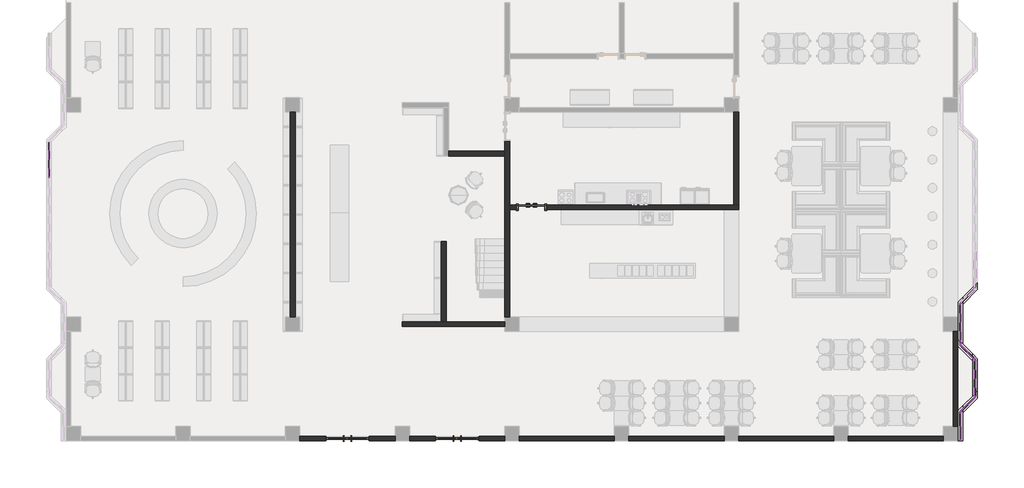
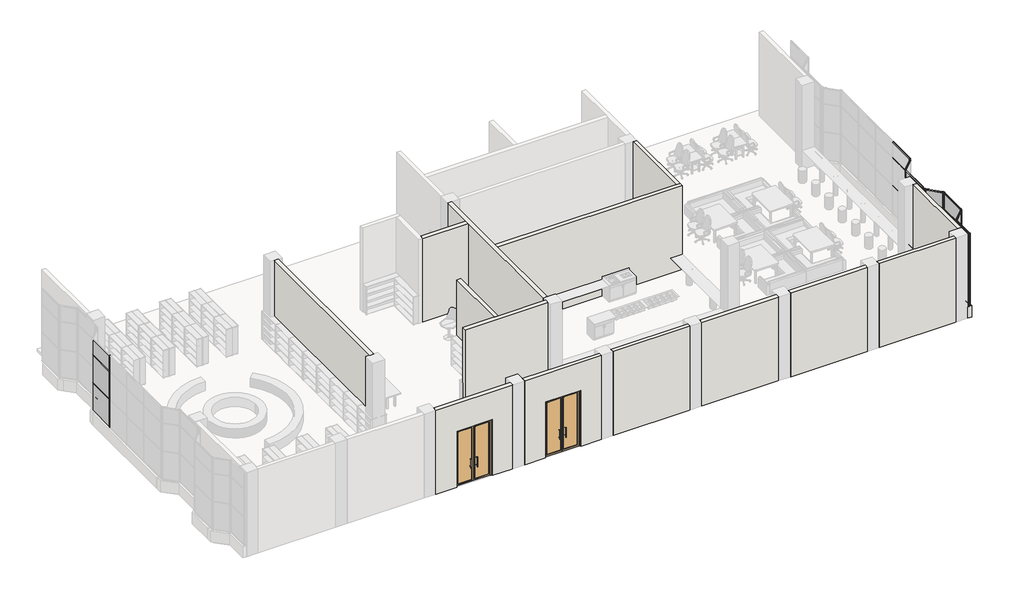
# One storey, part 2 of 6: 80 members, 22 plates, 20 walls, 3 doors.
"""IFC4 building model written with IfcOpenShell, lengths in millimetres."""

from ifc_helpers import new_model, si_unit, frame, origin, origin_with_axes, place, context, project, spatial, polyline, outline, extrude, faceted_brep, transform, mapped, element, save
from components import m1_435fa931, m2_627b48e9, member_416e91fe, member_e4634f50, member_39920356, member_1f987d58, member_cb4e50c7, member_f3a61f5a, member_936fc316, member_ce826986, member_b2874c62, member_844fc7d1, member_a19ce0de, member_3b68bbe8, member_65f70824, member_5b67f58a, plate_37a4c68e, plate_a56820a4, plate_1ca0cd63, plate_9a7d06eb, plate_54ac635d, plate_9a913afb, plate_a414dcb1, plate_d4bc9f12

model = new_model("IFC4")

# Units and contexts
model_context = context("Model", 3, world=origin())
ifc_project = project(units=[si_unit("LENGTHUNIT", "METRE", prefix="MILLI")], contexts=[model_context])

# Site, building, storey
site = spatial("IfcSite", under=ifc_project)
building = spatial("IfcBuilding", under=site)
storey = spatial("IfcBuildingStorey", under=building, Name="标高 1", Elevation=0.0)

# Doors
placement = place(None, origin())
m1_shape = m1_435fa931(model_context)
element("IfcDoor", 1, ObjectType="双面嵌板玻璃门 : M1", at=placement, inside=storey, context=model_context, shape_type="MappedRepresentation", body=[
    mapped(m1_shape, transform((2817.3316161, -11825.464179, 0.0), x_axis=(1.0, 0.0, 0.0), y_axis=(0.0, 1.0, 0.0), z_axis=(0.0, 0.0, 1.0))),
])
element("IfcDoor", 2, ObjectType="双面嵌板玻璃门 : M1", at=placement, inside=storey, context=model_context, shape_type="MappedRepresentation", body=[
    mapped(m1_shape, transform((7317.3316161, -11825.464179, 0.0), x_axis=(1.0, 0.0, 0.0), y_axis=(0.0, 1.0, 0.0), z_axis=(0.0, 0.0, 1.0))),
])
m2_shape = m2_627b48e9(model_context)
element("IfcDoor", 3, ObjectType="双面嵌板木门 1 : M2", at=placement, inside=storey, context=model_context, shape_type="MappedRepresentation", body=[
    mapped(m2_shape, transform((10367.3316161, -2325.464179, 0.0), x_axis=(1.0, 0.0, 0.0), y_axis=(0.0, 1.0, 0.0), z_axis=(0.0, 0.0, 1.0))),
])

# Members
member_shape = member_416e91fe(model_context)
element("IfcMember", 4, ObjectType="矩形竖梃 : 30mm 正方形", at=placement, inside=storey, context=model_context, shape_type="MappedRepresentation", body=[
    mapped(member_shape, transform((-9432.6683839, -1104.0428231, 2135.0), x_axis=(0.0, 0.0, 1.0), y_axis=(-1.0, 0.0, 0.0), z_axis=(0.0, -1.0, 0.0))),
])
element("IfcMember", 5, ObjectType="矩形竖梃 : 30mm 正方形", at=placement, inside=storey, context=model_context, shape_type="MappedRepresentation", body=[
    mapped(member_shape, transform((-9432.6683839, -1104.0428231, 3635.0), x_axis=(0.0, 0.0, 1.0), y_axis=(-1.0, 0.0, 0.0), z_axis=(0.0, -1.0, 0.0))),
])
member_2_shape = member_e4634f50(model_context)
element("IfcMember", 6, ObjectType="矩形竖梃 : 30mm 正方形", at=placement, inside=storey, context=model_context, shape_type="MappedRepresentation", body=[
    mapped(member_2_shape, transform((-9432.6683839, -1119.0428231, 600.0), x_axis=(0.0, -1.0, 0.0), y_axis=(-1.0, 0.0, 0.0), z_axis=(0.0, 0.0, -1.0))),
])
member_3_shape = member_39920356(model_context)
element("IfcMember", 7, ObjectType="矩形竖梃 : 30mm 正方形", at=placement, inside=storey, context=model_context, shape_type="MappedRepresentation", body=[
    mapped(member_3_shape, transform((-9432.6683839, -1119.0428231, 2135.0), x_axis=(0.0, -1.0, 0.0), y_axis=(-1.0, 0.0, 0.0), z_axis=(0.0, 0.0, -1.0))),
])
member_4_shape = member_1f987d58(model_context)
element("IfcMember", 8, ObjectType="矩形竖梃 : 30mm 正方形", at=placement, inside=storey, context=model_context, shape_type="MappedRepresentation", body=[
    mapped(member_4_shape, transform((-9432.6683839, -1119.0428231, 3635.0), x_axis=(0.0, -1.0, 0.0), y_axis=(-1.0, 0.0, 0.0), z_axis=(0.0, 0.0, -1.0))),
])
member_5_shape = member_cb4e50c7(model_context)
element("IfcMember", 9, ObjectType="圆形竖梃 : 25mm 半径", at=placement, inside=storey, context=model_context, shape_type="MappedRepresentation", body=[
    mapped(member_5_shape, transform((27967.3316161, -11875.464179, 4500.0), x_axis=(0.0, 0.0, 1.0), y_axis=(-1.0, 0.0, 0.0), z_axis=(0.0, -1.0, 0.0))),
])
element("IfcMember", 10, ObjectType="圆形竖梃 : 25mm 半径", at=placement, inside=storey, context=model_context, shape_type="MappedRepresentation", body=[
    mapped(member_5_shape, transform((27967.3316161, -10775.464179, 600.0), x_axis=(0.0, 0.0, -1.0), y_axis=(-1.0, 0.0, 0.0), z_axis=(0.0, 1.0, 0.0))),
])
member_6_shape = member_f3a61f5a(model_context)
element("IfcMember", 11, ObjectType="矩形竖梃 : 30mm 正方形", at=placement, inside=storey, context=model_context, shape_type="MappedRepresentation", body=[
    mapped(member_6_shape, transform((27967.3316161, -11875.464179, 2135.0), x_axis=(0.0, 0.0, 1.0), y_axis=(-1.0, 0.0, 0.0), z_axis=(0.0, -1.0, 0.0))),
])
element("IfcMember", 12, ObjectType="矩形竖梃 : 30mm 正方形", at=placement, inside=storey, context=model_context, shape_type="MappedRepresentation", body=[
    mapped(member_6_shape, transform((27967.3316161, -11875.464179, 3635.0), x_axis=(0.0, 0.0, 1.0), y_axis=(-1.0, 0.0, 0.0), z_axis=(0.0, -1.0, 0.0))),
])
member_7_shape = member_936fc316(model_context)
element("IfcMember", 13, ObjectType="圆形竖梃 : 25mm 半径", at=placement, inside=storey, context=model_context, shape_type="MappedRepresentation", body=[
    mapped(member_7_shape, transform((28567.3316161, -5666.8855353, 600.0), x_axis=(0.0, -1.0, 0.0), y_axis=(-1.0, 0.0, 0.0), z_axis=(0.0, 0.0, -1.0))),
])
element("IfcMember", 14, ObjectType="圆形竖梃 : 25mm 半径", at=placement, inside=storey, context=model_context, shape_type="MappedRepresentation", body=[
    mapped(member_7_shape, transform((27967.3316161, -6266.8855353, 600.0), x_axis=(-0.7071067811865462, -0.7071067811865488, 0.0), y_axis=(-0.7071067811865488, 0.7071067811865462, 0.0), z_axis=(0.0, 0.0, -1.0))),
])
element("IfcMember", 15, ObjectType="圆形竖梃 : 25mm 半径", at=placement, inside=storey, context=model_context, shape_type="MappedRepresentation", body=[
    mapped(member_7_shape, transform((27967.3316161, -7984.0428228, 600.0), x_axis=(0.0, -1.0, 0.0), y_axis=(-1.0, 0.0, 0.0), z_axis=(0.0, 0.0, -1.0))),
])
element("IfcMember", 16, ObjectType="圆形竖梃 : 25mm 半径", at=placement, inside=storey, context=model_context, shape_type="MappedRepresentation", body=[
    mapped(member_7_shape, transform((28567.3316161, -8584.0428228, 600.0), x_axis=(0.7071067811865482, -0.7071067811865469, 0.0), y_axis=(-0.7071067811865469, -0.7071067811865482, 0.0), z_axis=(0.0, 0.0, -1.0))),
])
element("IfcMember", 17, ObjectType="圆形竖梃 : 25mm 半径", at=placement, inside=storey, context=model_context, shape_type="MappedRepresentation", body=[
    mapped(member_7_shape, transform((27967.3316161, -10725.464179, 600.0), x_axis=(-0.7071067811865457, -0.7071067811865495, 0.0), y_axis=(-0.7071067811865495, 0.7071067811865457, 0.0), z_axis=(0.0, 0.0, -1.0))),
])
element("IfcMember", 18, ObjectType="圆形竖梃 : 25mm 半径", at=placement, inside=storey, context=model_context, shape_type="MappedRepresentation", body=[
    mapped(member_7_shape, transform((27967.3316161, -11925.464179, 600.0), x_axis=(0.0, -1.0, 0.0), y_axis=(-1.0, 0.0, 0.0), z_axis=(0.0, 0.0, -1.0))),
])
member_8_shape = member_ce826986(model_context)
element("IfcMember", 19, ObjectType="圆形竖梃 : 25mm 半径", at=placement, inside=storey, context=model_context, shape_type="MappedRepresentation", body=[
    mapped(member_8_shape, transform((28567.3316161, -5666.8855353, 2135.0), x_axis=(0.0, -1.0, 0.0), y_axis=(-1.0, 0.0, 0.0), z_axis=(0.0, 0.0, -1.0))),
])
element("IfcMember", 20, ObjectType="圆形竖梃 : 25mm 半径", at=placement, inside=storey, context=model_context, shape_type="MappedRepresentation", body=[
    mapped(member_8_shape, transform((27967.3316161, -6266.8855353, 2135.0), x_axis=(-0.7071067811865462, -0.7071067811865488, 0.0), y_axis=(-0.7071067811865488, 0.7071067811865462, 0.0), z_axis=(0.0, 0.0, -1.0))),
])
element("IfcMember", 21, ObjectType="圆形竖梃 : 25mm 半径", at=placement, inside=storey, context=model_context, shape_type="MappedRepresentation", body=[
    mapped(member_8_shape, transform((27967.3316161, -7984.0428228, 2135.0), x_axis=(0.0, -1.0, 0.0), y_axis=(-1.0, 0.0, 0.0), z_axis=(0.0, 0.0, -1.0))),
])
element("IfcMember", 22, ObjectType="圆形竖梃 : 25mm 半径", at=placement, inside=storey, context=model_context, shape_type="MappedRepresentation", body=[
    mapped(member_8_shape, transform((28567.3316161, -8584.0428228, 2135.0), x_axis=(0.7071067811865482, -0.7071067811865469, 0.0), y_axis=(-0.7071067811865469, -0.7071067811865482, 0.0), z_axis=(0.0, 0.0, -1.0))),
])
element("IfcMember", 23, ObjectType="圆形竖梃 : 25mm 半径", at=placement, inside=storey, context=model_context, shape_type="MappedRepresentation", body=[
    mapped(member_8_shape, transform((27967.3316161, -10725.464179, 2135.0), x_axis=(-0.7071067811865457, -0.7071067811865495, 0.0), y_axis=(-0.7071067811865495, 0.7071067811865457, 0.0), z_axis=(0.0, 0.0, -1.0))),
])
element("IfcMember", 24, ObjectType="圆形竖梃 : 25mm 半径", at=placement, inside=storey, context=model_context, shape_type="MappedRepresentation", body=[
    mapped(member_8_shape, transform((27967.3316161, -11925.464179, 2135.0), x_axis=(0.0, -1.0, 0.0), y_axis=(-1.0, 0.0, 0.0), z_axis=(0.0, 0.0, -1.0))),
])
member_9_shape = member_b2874c62(model_context)
element("IfcMember", 25, ObjectType="圆形竖梃 : 25mm 半径", at=placement, inside=storey, context=model_context, shape_type="MappedRepresentation", body=[
    mapped(member_9_shape, transform((28567.3316161, -5666.8855353, 3635.0), x_axis=(0.0, -1.0, 0.0), y_axis=(-1.0, 0.0, 0.0), z_axis=(0.0, 0.0, -1.0))),
])
element("IfcMember", 26, ObjectType="圆形竖梃 : 25mm 半径", at=placement, inside=storey, context=model_context, shape_type="MappedRepresentation", body=[
    mapped(member_9_shape, transform((27967.3316161, -6266.8855353, 3635.0), x_axis=(-0.7071067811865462, -0.7071067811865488, 0.0), y_axis=(-0.7071067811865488, 0.7071067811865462, 0.0), z_axis=(0.0, 0.0, -1.0))),
])
element("IfcMember", 27, ObjectType="圆形竖梃 : 25mm 半径", at=placement, inside=storey, context=model_context, shape_type="MappedRepresentation", body=[
    mapped(member_9_shape, transform((27967.3316161, -7984.0428228, 3635.0), x_axis=(0.0, -1.0, 0.0), y_axis=(-1.0, 0.0, 0.0), z_axis=(0.0, 0.0, -1.0))),
])
element("IfcMember", 28, ObjectType="圆形竖梃 : 25mm 半径", at=placement, inside=storey, context=model_context, shape_type="MappedRepresentation", body=[
    mapped(member_9_shape, transform((28567.3316161, -8584.0428228, 3635.0), x_axis=(0.7071067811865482, -0.7071067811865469, 0.0), y_axis=(-0.7071067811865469, -0.7071067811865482, 0.0), z_axis=(0.0, 0.0, -1.0))),
])
element("IfcMember", 29, ObjectType="圆形竖梃 : 25mm 半径", at=placement, inside=storey, context=model_context, shape_type="MappedRepresentation", body=[
    mapped(member_9_shape, transform((27967.3316161, -10725.464179, 3635.0), x_axis=(-0.7071067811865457, -0.7071067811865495, 0.0), y_axis=(-0.7071067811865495, 0.7071067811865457, 0.0), z_axis=(0.0, 0.0, -1.0))),
])
element("IfcMember", 30, ObjectType="圆形竖梃 : 25mm 半径", at=placement, inside=storey, context=model_context, shape_type="MappedRepresentation", body=[
    mapped(member_9_shape, transform((27967.3316161, -11925.464179, 3635.0), x_axis=(0.0, -1.0, 0.0), y_axis=(-1.0, 0.0, 0.0), z_axis=(0.0, 0.0, -1.0))),
])
element("IfcMember", 31, ObjectType="圆形竖梃 : 25mm 半径", at=placement, inside=storey, context=model_context, shape_type="MappedRepresentation", body=[
    mapped(member_9_shape, transform((27967.3316161, -6266.8855353, 4500.0), x_axis=(0.0, 1.0, 0.0), y_axis=(-1.0, 0.0, 0.0), z_axis=(0.0, 0.0, 1.0))),
])
element("IfcMember", 32, ObjectType="圆形竖梃 : 25mm 半径", at=placement, inside=storey, context=model_context, shape_type="MappedRepresentation", body=[
    mapped(member_9_shape, transform((27967.3316161, -7984.0428228, 4500.0), x_axis=(-0.7071067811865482, 0.7071067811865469, 0.0), y_axis=(-0.7071067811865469, -0.7071067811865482, 0.0), z_axis=(0.0, 0.0, 1.0))),
])
element("IfcMember", 33, ObjectType="圆形竖梃 : 25mm 半径", at=placement, inside=storey, context=model_context, shape_type="MappedRepresentation", body=[
    mapped(member_9_shape, transform((28567.3316161, -8584.0428228, 4500.0), x_axis=(0.0, 1.0, 0.0), y_axis=(-1.0, 0.0, 0.0), z_axis=(0.0, 0.0, 1.0))),
])
element("IfcMember", 34, ObjectType="圆形竖梃 : 25mm 半径", at=placement, inside=storey, context=model_context, shape_type="MappedRepresentation", body=[
    mapped(member_9_shape, transform((28567.3316161, -10125.464179, 4500.0), x_axis=(0.7071067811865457, 0.7071067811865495, 0.0), y_axis=(-0.7071067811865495, 0.7071067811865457, 0.0), z_axis=(0.0, 0.0, 1.0))),
])
element("IfcMember", 35, ObjectType="圆形竖梃 : 25mm 半径", at=placement, inside=storey, context=model_context, shape_type="MappedRepresentation", body=[
    mapped(member_9_shape, transform((27967.3316161, -10725.464179, 4500.0), x_axis=(0.0, 1.0, 0.0), y_axis=(-1.0, 0.0, 0.0), z_axis=(0.0, 0.0, 1.0))),
])
element("IfcMember", 36, ObjectType="圆形竖梃 : 25mm 半径", at=placement, inside=storey, context=model_context, shape_type="MappedRepresentation", body=[
    mapped(member_7_shape, transform((27967.3316161, -6266.8855353, 2135.0), x_axis=(0.0, 1.0, 0.0), y_axis=(-1.0, 0.0, 0.0), z_axis=(0.0, 0.0, 1.0))),
])
element("IfcMember", 37, ObjectType="圆形竖梃 : 25mm 半径", at=placement, inside=storey, context=model_context, shape_type="MappedRepresentation", body=[
    mapped(member_7_shape, transform((27967.3316161, -7984.0428228, 2135.0), x_axis=(-0.7071067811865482, 0.7071067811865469, 0.0), y_axis=(-0.7071067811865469, -0.7071067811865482, 0.0), z_axis=(0.0, 0.0, 1.0))),
])
element("IfcMember", 38, ObjectType="圆形竖梃 : 25mm 半径", at=placement, inside=storey, context=model_context, shape_type="MappedRepresentation", body=[
    mapped(member_7_shape, transform((28567.3316161, -8584.0428228, 2135.0), x_axis=(0.0, 1.0, 0.0), y_axis=(-1.0, 0.0, 0.0), z_axis=(0.0, 0.0, 1.0))),
])
element("IfcMember", 39, ObjectType="圆形竖梃 : 25mm 半径", at=placement, inside=storey, context=model_context, shape_type="MappedRepresentation", body=[
    mapped(member_7_shape, transform((28567.3316161, -10125.464179, 2135.0), x_axis=(0.7071067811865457, 0.7071067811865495, 0.0), y_axis=(-0.7071067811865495, 0.7071067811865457, 0.0), z_axis=(0.0, 0.0, 1.0))),
])
element("IfcMember", 40, ObjectType="圆形竖梃 : 25mm 半径", at=placement, inside=storey, context=model_context, shape_type="MappedRepresentation", body=[
    mapped(member_7_shape, transform((27967.3316161, -10725.464179, 2135.0), x_axis=(0.0, 1.0, 0.0), y_axis=(-1.0, 0.0, 0.0), z_axis=(0.0, 0.0, 1.0))),
])
element("IfcMember", 41, ObjectType="圆形竖梃 : 25mm 半径", at=placement, inside=storey, context=model_context, shape_type="MappedRepresentation", body=[
    mapped(member_8_shape, transform((27967.3316161, -6266.8855353, 3635.0), x_axis=(0.0, 1.0, 0.0), y_axis=(-1.0, 0.0, 0.0), z_axis=(0.0, 0.0, 1.0))),
])
element("IfcMember", 42, ObjectType="圆形竖梃 : 25mm 半径", at=placement, inside=storey, context=model_context, shape_type="MappedRepresentation", body=[
    mapped(member_8_shape, transform((27967.3316161, -7984.0428228, 3635.0), x_axis=(-0.7071067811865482, 0.7071067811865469, 0.0), y_axis=(-0.7071067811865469, -0.7071067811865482, 0.0), z_axis=(0.0, 0.0, 1.0))),
])
element("IfcMember", 43, ObjectType="圆形竖梃 : 25mm 半径", at=placement, inside=storey, context=model_context, shape_type="MappedRepresentation", body=[
    mapped(member_8_shape, transform((28567.3316161, -8584.0428228, 3635.0), x_axis=(0.0, 1.0, 0.0), y_axis=(-1.0, 0.0, 0.0), z_axis=(0.0, 0.0, 1.0))),
])
element("IfcMember", 44, ObjectType="圆形竖梃 : 25mm 半径", at=placement, inside=storey, context=model_context, shape_type="MappedRepresentation", body=[
    mapped(member_8_shape, transform((28567.3316161, -10125.464179, 3635.0), x_axis=(0.7071067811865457, 0.7071067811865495, 0.0), y_axis=(-0.7071067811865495, 0.7071067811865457, 0.0), z_axis=(0.0, 0.0, 1.0))),
])
element("IfcMember", 45, ObjectType="圆形竖梃 : 25mm 半径", at=placement, inside=storey, context=model_context, shape_type="MappedRepresentation", body=[
    mapped(member_8_shape, transform((27967.3316161, -10725.464179, 3635.0), x_axis=(0.0, 1.0, 0.0), y_axis=(-1.0, 0.0, 0.0), z_axis=(0.0, 0.0, 1.0))),
])
member_10_shape = member_844fc7d1(model_context)
element("IfcMember", 46, ObjectType="圆形竖梃 : 25mm 半径", at=placement, inside=storey, context=model_context, shape_type="MappedRepresentation", body=[
    mapped(member_10_shape, transform((28002.6869551, -6231.5301962, 4500.0), x_axis=(0.0, 0.0, 1.0), y_axis=(-0.7071067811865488, 0.7071067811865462, 0.0), z_axis=(-0.7071067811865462, -0.7071067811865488, 0.0))),
])
element("IfcMember", 47, ObjectType="圆形竖梃 : 25mm 半径", at=placement, inside=storey, context=model_context, shape_type="MappedRepresentation", body=[
    mapped(member_10_shape, transform((28531.976277, -8548.6874837, 4500.0), x_axis=(0.0, 0.0, 1.0), y_axis=(-0.7071067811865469, -0.7071067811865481, 0.0), z_axis=(0.7071067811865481, -0.7071067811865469, 0.0))),
])
element("IfcMember", 48, ObjectType="圆形竖梃 : 25mm 半径", at=placement, inside=storey, context=model_context, shape_type="MappedRepresentation", body=[
    mapped(member_10_shape, transform((28002.6869551, -10690.10884, 4500.0), x_axis=(0.0, 0.0, 1.0), y_axis=(-0.7071067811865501, 0.707106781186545, 0.0), z_axis=(-0.707106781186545, -0.7071067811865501, 0.0))),
])
element("IfcMember", 49, ObjectType="圆形竖梃 : 25mm 半径", at=placement, inside=storey, context=model_context, shape_type="MappedRepresentation", body=[
    mapped(member_10_shape, transform((28002.6869551, -8019.3981618, 600.0), x_axis=(0.0, 0.0, -1.0), y_axis=(-0.7071067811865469, -0.7071067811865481, 0.0), z_axis=(-0.7071067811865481, 0.7071067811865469, 0.0))),
])
element("IfcMember", 50, ObjectType="圆形竖梃 : 25mm 半径", at=placement, inside=storey, context=model_context, shape_type="MappedRepresentation", body=[
    mapped(member_10_shape, transform((28531.976277, -10160.8195181, 600.0), x_axis=(0.0, 0.0, -1.0), y_axis=(-0.7071067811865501, 0.707106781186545, 0.0), z_axis=(0.707106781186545, 0.7071067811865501, 0.0))),
])
member_11_shape = member_a19ce0de(model_context)
element("IfcMember", 51, ObjectType="矩形竖梃 : 30mm 正方形", at=placement, inside=storey, context=model_context, shape_type="MappedRepresentation", body=[
    mapped(member_11_shape, transform((28002.6869551, -6231.5301962, 2135.0), x_axis=(0.0, 0.0, 1.0), y_axis=(-0.7071067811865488, 0.7071067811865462, 0.0), z_axis=(-0.7071067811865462, -0.7071067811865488, 0.0))),
])
element("IfcMember", 52, ObjectType="矩形竖梃 : 30mm 正方形", at=placement, inside=storey, context=model_context, shape_type="MappedRepresentation", body=[
    mapped(member_11_shape, transform((28002.6869551, -6231.5301962, 3635.0), x_axis=(0.0, 0.0, 1.0), y_axis=(-0.7071067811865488, 0.7071067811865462, 0.0), z_axis=(-0.7071067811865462, -0.7071067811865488, 0.0))),
])
element("IfcMember", 53, ObjectType="矩形竖梃 : 30mm 正方形", at=placement, inside=storey, context=model_context, shape_type="MappedRepresentation", body=[
    mapped(member_11_shape, transform((28531.976277, -8548.6874837, 2135.0), x_axis=(0.0, 0.0, 1.0), y_axis=(-0.7071067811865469, -0.7071067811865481, 0.0), z_axis=(0.7071067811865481, -0.7071067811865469, 0.0))),
])
element("IfcMember", 54, ObjectType="矩形竖梃 : 30mm 正方形", at=placement, inside=storey, context=model_context, shape_type="MappedRepresentation", body=[
    mapped(member_11_shape, transform((28531.976277, -8548.6874837, 3635.0), x_axis=(0.0, 0.0, 1.0), y_axis=(-0.7071067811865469, -0.7071067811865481, 0.0), z_axis=(0.7071067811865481, -0.7071067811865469, 0.0))),
])
element("IfcMember", 55, ObjectType="矩形竖梃 : 30mm 正方形", at=placement, inside=storey, context=model_context, shape_type="MappedRepresentation", body=[
    mapped(member_11_shape, transform((28002.6869551, -10690.10884, 2135.0), x_axis=(0.0, 0.0, 1.0), y_axis=(-0.7071067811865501, 0.707106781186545, 0.0), z_axis=(-0.707106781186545, -0.7071067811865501, 0.0))),
])
element("IfcMember", 56, ObjectType="矩形竖梃 : 30mm 正方形", at=placement, inside=storey, context=model_context, shape_type="MappedRepresentation", body=[
    mapped(member_11_shape, transform((28002.6869551, -10690.10884, 3635.0), x_axis=(0.0, 0.0, 1.0), y_axis=(-0.7071067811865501, 0.707106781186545, 0.0), z_axis=(-0.707106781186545, -0.7071067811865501, 0.0))),
])
member_12_shape = member_3b68bbe8(model_context)
element("IfcMember", 57, ObjectType="圆形竖梃 : 25mm 半径", at=placement, inside=storey, context=model_context, shape_type="MappedRepresentation", body=[
    mapped(member_12_shape, transform((28567.3316161, -5604.0428231, 4500.0), x_axis=(0.0, 0.0, 1.0), y_axis=(-1.0, 0.0, 0.0), z_axis=(0.0, -1.0, 0.0))),
])
element("IfcMember", 58, ObjectType="圆形竖梃 : 25mm 半径", at=placement, inside=storey, context=model_context, shape_type="MappedRepresentation", body=[
    mapped(member_12_shape, transform((27967.3316161, -7786.8855356, 4500.0), x_axis=(0.0, 0.0, 1.0), y_axis=(-1.0, 0.0, 0.0), z_axis=(0.0, -1.0, 0.0))),
])
element("IfcMember", 59, ObjectType="圆形竖梃 : 25mm 半径", at=placement, inside=storey, context=model_context, shape_type="MappedRepresentation", body=[
    mapped(member_12_shape, transform((28567.3316161, -10104.0428231, 4500.0), x_axis=(0.0, 0.0, 1.0), y_axis=(-1.0, 0.0, 0.0), z_axis=(0.0, -1.0, 0.0))),
])
element("IfcMember", 60, ObjectType="圆形竖梃 : 25mm 半径", at=placement, inside=storey, context=model_context, shape_type="MappedRepresentation", body=[
    mapped(member_12_shape, transform((27967.3316161, -6316.8855353, 600.0), x_axis=(0.0, 0.0, -1.0), y_axis=(-1.0, 0.0, 0.0), z_axis=(0.0, 1.0, 0.0))),
])
element("IfcMember", 61, ObjectType="圆形竖梃 : 25mm 半径", at=placement, inside=storey, context=model_context, shape_type="MappedRepresentation", body=[
    mapped(member_12_shape, transform((28567.3316161, -8634.0428228, 600.0), x_axis=(0.0, 0.0, -1.0), y_axis=(-1.0, 0.0, 0.0), z_axis=(0.0, 1.0, 0.0))),
])
element("IfcMember", 62, ObjectType="矩形竖梃 : 30mm 正方形", at=placement, inside=storey, context=model_context, shape_type="MappedRepresentation", body=[
    mapped(member_shape, transform((28567.3316161, -5604.0428231, 2135.0), x_axis=(0.0, 0.0, 1.0), y_axis=(-1.0, 0.0, 0.0), z_axis=(0.0, -1.0, 0.0))),
])
element("IfcMember", 63, ObjectType="矩形竖梃 : 30mm 正方形", at=placement, inside=storey, context=model_context, shape_type="MappedRepresentation", body=[
    mapped(member_shape, transform((28567.3316161, -5604.0428231, 3635.0), x_axis=(0.0, 0.0, 1.0), y_axis=(-1.0, 0.0, 0.0), z_axis=(0.0, -1.0, 0.0))),
])
element("IfcMember", 64, ObjectType="矩形竖梃 : 30mm 正方形", at=placement, inside=storey, context=model_context, shape_type="MappedRepresentation", body=[
    mapped(member_shape, transform((27967.3316161, -7786.8855356, 2135.0), x_axis=(0.0, 0.0, 1.0), y_axis=(-1.0, 0.0, 0.0), z_axis=(0.0, -1.0, 0.0))),
])
element("IfcMember", 65, ObjectType="矩形竖梃 : 30mm 正方形", at=placement, inside=storey, context=model_context, shape_type="MappedRepresentation", body=[
    mapped(member_shape, transform((27967.3316161, -7786.8855356, 3635.0), x_axis=(0.0, 0.0, 1.0), y_axis=(-1.0, 0.0, 0.0), z_axis=(0.0, -1.0, 0.0))),
])
element("IfcMember", 66, ObjectType="矩形竖梃 : 30mm 正方形", at=placement, inside=storey, context=model_context, shape_type="MappedRepresentation", body=[
    mapped(member_shape, transform((28567.3316161, -10104.0428231, 2135.0), x_axis=(0.0, 0.0, 1.0), y_axis=(-1.0, 0.0, 0.0), z_axis=(0.0, -1.0, 0.0))),
])
element("IfcMember", 67, ObjectType="矩形竖梃 : 30mm 正方形", at=placement, inside=storey, context=model_context, shape_type="MappedRepresentation", body=[
    mapped(member_shape, transform((28567.3316161, -10104.0428231, 3635.0), x_axis=(0.0, 0.0, 1.0), y_axis=(-1.0, 0.0, 0.0), z_axis=(0.0, -1.0, 0.0))),
])
element("IfcMember", 68, ObjectType="矩形竖梃 : 30mm 正方形", at=placement, inside=storey, context=model_context, shape_type="MappedRepresentation", body=[
    mapped(member_2_shape, transform((28567.3316161, -5619.0428231, 600.0), x_axis=(0.0, -1.0, 0.0), y_axis=(-1.0, 0.0, 0.0), z_axis=(0.0, 0.0, -1.0))),
])
element("IfcMember", 69, ObjectType="矩形竖梃 : 30mm 正方形", at=placement, inside=storey, context=model_context, shape_type="MappedRepresentation", body=[
    mapped(member_2_shape, transform((27967.3316161, -7801.8855356, 600.0), x_axis=(0.0, -1.0, 0.0), y_axis=(-1.0, 0.0, 0.0), z_axis=(0.0, 0.0, -1.0))),
])
element("IfcMember", 70, ObjectType="矩形竖梃 : 30mm 正方形", at=placement, inside=storey, context=model_context, shape_type="MappedRepresentation", body=[
    mapped(member_2_shape, transform((28567.3316161, -10119.0428231, 600.0), x_axis=(0.0, -1.0, 0.0), y_axis=(-1.0, 0.0, 0.0), z_axis=(0.0, 0.0, -1.0))),
])
element("IfcMember", 71, ObjectType="矩形竖梃 : 30mm 正方形", at=placement, inside=storey, context=model_context, shape_type="MappedRepresentation", body=[
    mapped(member_3_shape, transform((28567.3316161, -5619.0428231, 2135.0), x_axis=(0.0, -1.0, 0.0), y_axis=(-1.0, 0.0, 0.0), z_axis=(0.0, 0.0, -1.0))),
])
element("IfcMember", 72, ObjectType="矩形竖梃 : 30mm 正方形", at=placement, inside=storey, context=model_context, shape_type="MappedRepresentation", body=[
    mapped(member_3_shape, transform((27967.3316161, -7801.8855356, 2135.0), x_axis=(0.0, -1.0, 0.0), y_axis=(-1.0, 0.0, 0.0), z_axis=(0.0, 0.0, -1.0))),
])
element("IfcMember", 73, ObjectType="矩形竖梃 : 30mm 正方形", at=placement, inside=storey, context=model_context, shape_type="MappedRepresentation", body=[
    mapped(member_3_shape, transform((28567.3316161, -10119.0428231, 2135.0), x_axis=(0.0, -1.0, 0.0), y_axis=(-1.0, 0.0, 0.0), z_axis=(0.0, 0.0, -1.0))),
])
element("IfcMember", 74, ObjectType="矩形竖梃 : 30mm 正方形", at=placement, inside=storey, context=model_context, shape_type="MappedRepresentation", body=[
    mapped(member_4_shape, transform((28567.3316161, -5619.0428231, 3635.0), x_axis=(0.0, -1.0, 0.0), y_axis=(-1.0, 0.0, 0.0), z_axis=(0.0, 0.0, -1.0))),
])
element("IfcMember", 75, ObjectType="矩形竖梃 : 30mm 正方形", at=placement, inside=storey, context=model_context, shape_type="MappedRepresentation", body=[
    mapped(member_4_shape, transform((27967.3316161, -7801.8855356, 3635.0), x_axis=(0.0, -1.0, 0.0), y_axis=(-1.0, 0.0, 0.0), z_axis=(0.0, 0.0, -1.0))),
])
element("IfcMember", 76, ObjectType="矩形竖梃 : 30mm 正方形", at=placement, inside=storey, context=model_context, shape_type="MappedRepresentation", body=[
    mapped(member_4_shape, transform((28567.3316161, -10119.0428231, 3635.0), x_axis=(0.0, -1.0, 0.0), y_axis=(-1.0, 0.0, 0.0), z_axis=(0.0, 0.0, -1.0))),
])
element("IfcMember", 77, ObjectType="圆形竖梃 : 25mm 半径", at=placement, inside=storey, context=model_context, shape_type="MappedRepresentation", body=[
    mapped(member_7_shape, transform((28567.3316161, -10125.464179, 600.0), x_axis=(0.0, -1.0, 0.0), y_axis=(-1.0, 0.0, 0.0), z_axis=(0.0, 0.0, -1.0))),
])
element("IfcMember", 78, ObjectType="圆形竖梃 : 25mm 半径", at=placement, inside=storey, context=model_context, shape_type="MappedRepresentation", body=[
    mapped(member_8_shape, transform((28567.3316161, -10125.464179, 2135.0), x_axis=(0.0, -1.0, 0.0), y_axis=(-1.0, 0.0, 0.0), z_axis=(0.0, 0.0, -1.0))),
])
element("IfcMember", 79, ObjectType="圆形竖梃 : 25mm 半径", at=placement, inside=storey, context=model_context, shape_type="MappedRepresentation", body=[
    mapped(member_9_shape, transform((28567.3316161, -10125.464179, 3635.0), x_axis=(0.0, -1.0, 0.0), y_axis=(-1.0, 0.0, 0.0), z_axis=(0.0, 0.0, -1.0))),
])
member_13_shape = member_65f70824(model_context)
element("IfcMember", 80, ObjectType="圆形竖梃 : 25mm 半径", at=placement, inside=storey, context=model_context, shape_type="MappedRepresentation", body=[
    mapped(member_13_shape, transform((27967.3316161, -7934.0428228, 4500.0), x_axis=(0.0, 0.0, 1.0), y_axis=(-1.0, 0.0, 0.0), z_axis=(0.0, -1.0, 0.0))),
])
element("IfcMember", 81, ObjectType="圆形竖梃 : 25mm 半径", at=placement, inside=storey, context=model_context, shape_type="MappedRepresentation", body=[
    mapped(member_13_shape, transform((27967.3316161, -7816.8855356, 600.0), x_axis=(0.0, 0.0, -1.0), y_axis=(-1.0, 0.0, 0.0), z_axis=(0.0, 1.0, 0.0))),
])
member_14_shape = member_5b67f58a(model_context)
element("IfcMember", 82, ObjectType="矩形竖梃 : 30mm 正方形", at=placement, inside=storey, context=model_context, shape_type="MappedRepresentation", body=[
    mapped(member_14_shape, transform((27967.3316161, -7934.0428228, 2135.0), x_axis=(0.0, 0.0, 1.0), y_axis=(-1.0, 0.0, 0.0), z_axis=(0.0, -1.0, 0.0))),
])
element("IfcMember", 83, ObjectType="矩形竖梃 : 30mm 正方形", at=placement, inside=storey, context=model_context, shape_type="MappedRepresentation", body=[
    mapped(member_14_shape, transform((27967.3316161, -7934.0428228, 3635.0), x_axis=(0.0, 0.0, 1.0), y_axis=(-1.0, 0.0, 0.0), z_axis=(0.0, -1.0, 0.0))),
])

# Plates
plate_shape = plate_37a4c68e(model_context)
element("IfcPlate", 84, ObjectType="系统嵌板 : 玻璃", at=placement, inside=storey, context=model_context, shape_type="MappedRepresentation", body=[
    mapped(plate_shape, transform((-9432.6683839, -369.0428229, 650.0), x_axis=(0.0, -1.0, 0.0), y_axis=(1.0, 0.0, 0.0), z_axis=(0.0, 0.0, 1.0))),
])
element("IfcPlate", 85, ObjectType="系统嵌板 : 玻璃", at=placement, inside=storey, context=model_context, shape_type="MappedRepresentation", body=[
    mapped(plate_shape, transform((-9432.6683839, -369.0428229, 2150.0), x_axis=(0.0, -1.0, 0.0), y_axis=(1.0, 0.0, 0.0), z_axis=(0.0, 0.0, 1.0))),
])
plate_2_shape = plate_a56820a4(model_context)
element("IfcPlate", 86, ObjectType="系统嵌板 : 玻璃", at=placement, inside=storey, context=model_context, shape_type="MappedRepresentation", body=[
    mapped(plate_2_shape, transform((-9432.6683839, -369.0428229, 3650.0), x_axis=(0.0, -1.0, 0.0), y_axis=(1.0, 0.0, 0.0), z_axis=(0.0, 0.0, 1.0))),
])
plate_3_shape = plate_1ca0cd63(model_context)
element("IfcPlate", 87, ObjectType="系统嵌板 : 玻璃", at=placement, inside=storey, context=model_context, shape_type="MappedRepresentation", body=[
    mapped(plate_3_shape, transform((27967.3316161, -11325.464179, 650.0), x_axis=(0.0, -1.0, 0.0), y_axis=(1.0, 0.0, 0.0), z_axis=(0.0, 0.0, 1.0))),
])
element("IfcPlate", 88, ObjectType="系统嵌板 : 玻璃", at=placement, inside=storey, context=model_context, shape_type="MappedRepresentation", body=[
    mapped(plate_3_shape, transform((27967.3316161, -11325.464179, 2150.0), x_axis=(0.0, -1.0, 0.0), y_axis=(1.0, 0.0, 0.0), z_axis=(0.0, 0.0, 1.0))),
])
plate_4_shape = plate_9a7d06eb(model_context)
element("IfcPlate", 89, ObjectType="系统嵌板 : 玻璃", at=placement, inside=storey, context=model_context, shape_type="MappedRepresentation", body=[
    mapped(plate_4_shape, transform((27967.3316161, -11325.464179, 3650.0), x_axis=(0.0, -1.0, 0.0), y_axis=(1.0, 0.0, 0.0), z_axis=(0.0, 0.0, 1.0))),
])
plate_5_shape = plate_54ac635d(model_context)
element("IfcPlate", 90, ObjectType="系统嵌板 : 玻璃", at=placement, inside=storey, context=model_context, shape_type="MappedRepresentation", body=[
    mapped(plate_5_shape, transform((28267.3316161, -5966.8855353, 650.0), x_axis=(-0.7071067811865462, -0.7071067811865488, 0.0), y_axis=(0.7071067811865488, -0.7071067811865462, 0.0), z_axis=(0.0, 0.0, 1.0))),
])
element("IfcPlate", 91, ObjectType="系统嵌板 : 玻璃", at=placement, inside=storey, context=model_context, shape_type="MappedRepresentation", body=[
    mapped(plate_5_shape, transform((28267.3316161, -8284.0428228, 650.0), x_axis=(0.7071067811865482, -0.7071067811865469, 0.0), y_axis=(0.7071067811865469, 0.7071067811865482, 0.0), z_axis=(0.0, 0.0, 1.0))),
])
element("IfcPlate", 92, ObjectType="系统嵌板 : 玻璃", at=placement, inside=storey, context=model_context, shape_type="MappedRepresentation", body=[
    mapped(plate_5_shape, transform((28267.3316161, -8284.0428228, 2150.0), x_axis=(0.7071067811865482, -0.7071067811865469, 0.0), y_axis=(0.7071067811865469, 0.7071067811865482, 0.0), z_axis=(0.0, 0.0, 1.0))),
])
element("IfcPlate", 93, ObjectType="系统嵌板 : 玻璃", at=placement, inside=storey, context=model_context, shape_type="MappedRepresentation", body=[
    mapped(plate_5_shape, transform((28267.3316161, -10425.464179, 650.0), x_axis=(-0.7071067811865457, -0.7071067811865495, 0.0), y_axis=(0.7071067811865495, -0.7071067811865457, 0.0), z_axis=(0.0, 0.0, 1.0))),
])
element("IfcPlate", 94, ObjectType="系统嵌板 : 玻璃", at=placement, inside=storey, context=model_context, shape_type="MappedRepresentation", body=[
    mapped(plate_5_shape, transform((28267.3316161, -10425.464179, 2150.0), x_axis=(-0.7071067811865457, -0.7071067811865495, 0.0), y_axis=(0.7071067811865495, -0.7071067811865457, 0.0), z_axis=(0.0, 0.0, 1.0))),
])
plate_6_shape = plate_9a913afb(model_context)
element("IfcPlate", 95, ObjectType="系统嵌板 : 玻璃", at=placement, inside=storey, context=model_context, shape_type="MappedRepresentation", body=[
    mapped(plate_6_shape, transform((28267.3316161, -8284.0428228, 3650.0), x_axis=(0.7071067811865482, -0.7071067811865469, 0.0), y_axis=(0.7071067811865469, 0.7071067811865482, 0.0), z_axis=(0.0, 0.0, 1.0))),
])
element("IfcPlate", 96, ObjectType="系统嵌板 : 玻璃", at=placement, inside=storey, context=model_context, shape_type="MappedRepresentation", body=[
    mapped(plate_6_shape, transform((28267.3316161, -10425.464179, 3650.0), x_axis=(-0.7071067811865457, -0.7071067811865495, 0.0), y_axis=(0.7071067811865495, -0.7071067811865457, 0.0), z_axis=(0.0, 0.0, 1.0))),
])
element("IfcPlate", 97, ObjectType="系统嵌板 : 玻璃", at=placement, inside=storey, context=model_context, shape_type="MappedRepresentation", body=[
    mapped(plate_shape, transform((27967.3316161, -7051.8855354, 650.0), x_axis=(0.0, -1.0, 0.0), y_axis=(1.0, 0.0, 0.0), z_axis=(0.0, 0.0, 1.0))),
])
element("IfcPlate", 98, ObjectType="系统嵌板 : 玻璃", at=placement, inside=storey, context=model_context, shape_type="MappedRepresentation", body=[
    mapped(plate_shape, transform((27967.3316161, -7051.8855354, 2150.0), x_axis=(0.0, -1.0, 0.0), y_axis=(1.0, 0.0, 0.0), z_axis=(0.0, 0.0, 1.0))),
])
element("IfcPlate", 99, ObjectType="系统嵌板 : 玻璃", at=placement, inside=storey, context=model_context, shape_type="MappedRepresentation", body=[
    mapped(plate_shape, transform((28567.3316161, -9369.0428229, 650.0), x_axis=(0.0, -1.0, 0.0), y_axis=(1.0, 0.0, 0.0), z_axis=(0.0, 0.0, 1.0))),
])
element("IfcPlate", 100, ObjectType="系统嵌板 : 玻璃", at=placement, inside=storey, context=model_context, shape_type="MappedRepresentation", body=[
    mapped(plate_shape, transform((28567.3316161, -9369.0428229, 2150.0), x_axis=(0.0, -1.0, 0.0), y_axis=(1.0, 0.0, 0.0), z_axis=(0.0, 0.0, 1.0))),
])
element("IfcPlate", 101, ObjectType="系统嵌板 : 玻璃", at=placement, inside=storey, context=model_context, shape_type="MappedRepresentation", body=[
    mapped(plate_2_shape, transform((27967.3316161, -7051.8855354, 3650.0), x_axis=(0.0, -1.0, 0.0), y_axis=(1.0, 0.0, 0.0), z_axis=(0.0, 0.0, 1.0))),
])
element("IfcPlate", 102, ObjectType="系统嵌板 : 玻璃", at=placement, inside=storey, context=model_context, shape_type="MappedRepresentation", body=[
    mapped(plate_2_shape, transform((28567.3316161, -9369.0428229, 3650.0), x_axis=(0.0, -1.0, 0.0), y_axis=(1.0, 0.0, 0.0), z_axis=(0.0, 0.0, 1.0))),
])
plate_7_shape = plate_a414dcb1(model_context)
element("IfcPlate", 103, ObjectType="系统嵌板 : 玻璃", at=placement, inside=storey, context=model_context, shape_type="MappedRepresentation", body=[
    mapped(plate_7_shape, transform((27967.3316161, -7875.4641792, 650.0), x_axis=(0.0, -1.0, 0.0), y_axis=(1.0, 0.0, 0.0), z_axis=(0.0, 0.0, 1.0))),
])
element("IfcPlate", 104, ObjectType="系统嵌板 : 玻璃", at=placement, inside=storey, context=model_context, shape_type="MappedRepresentation", body=[
    mapped(plate_7_shape, transform((27967.3316161, -7875.4641792, 2150.0), x_axis=(0.0, -1.0, 0.0), y_axis=(1.0, 0.0, 0.0), z_axis=(0.0, 0.0, 1.0))),
])
plate_8_shape = plate_d4bc9f12(model_context)
element("IfcPlate", 105, ObjectType="系统嵌板 : 玻璃", at=placement, inside=storey, context=model_context, shape_type="MappedRepresentation", body=[
    mapped(plate_8_shape, transform((27967.3316161, -7875.4641792, 3650.0), x_axis=(0.0, -1.0, 0.0), y_axis=(1.0, 0.0, 0.0), z_axis=(0.0, 0.0, 1.0))),
])

# Walls
element("IfcWall", 106, ObjectType="外墙-200", at=placement, inside=storey, context=model_context, shape_type="SweptSolid", body=[
    extrude(outline(polyline([(0.0, 4767.3316161), (4500.0, 4767.3316161), (4500.0, 867.3316161), (0.0, 867.3316161), (0.0, 1917.3316161), (3000.0, 1917.3316161), (3000.0, 3717.3316161), (0.0, 3717.3316161), (0.0, 4767.3316161)])), frame((0.0, -11925.464179, 0.0), z_axis=(0.0, 1.0, 0.0), x_axis=(0.0, 0.0, 1.0)), (0.0, 0.0, 1.0), 200.0),
])
element("IfcWall", 107, ObjectType="外墙-200", at=placement, inside=storey, context=model_context, shape_type="SweptSolid", body=[
    extrude(outline(polyline([(0.0, 9267.3316161), (4500.0, 9267.3316161), (4500.0, 5367.3316161), (0.0, 5367.3316161), (0.0, 6417.3316161), (3000.0, 6417.3316161), (3000.0, 8217.3316161), (0.0, 8217.3316161), (0.0, 9267.3316161)])), frame((0.0, -11925.464179, 0.0), z_axis=(0.0, 1.0, 0.0), x_axis=(0.0, 0.0, 1.0)), (0.0, 0.0, 1.0), 200.0),
])
element("IfcWall", 108, ObjectType="外墙-200", at=placement, inside=storey, context=model_context, shape_type="SweptSolid", body=[
    extrude(outline(polyline([(13767.3316161, -11925.464179), (9867.3316161, -11925.464179), (9867.3316161, -11725.464179), (13767.3316161, -11725.464179), (13767.3316161, -11925.464179)])), origin_with_axes(), (0.0, 0.0, 1.0), 4500.0),
])
element("IfcWall", 109, ObjectType="外墙-200", at=placement, inside=storey, context=model_context, shape_type="SweptSolid", body=[
    extrude(outline(polyline([(18267.3316161, -11925.464179), (14367.3316161, -11925.464179), (14367.3316161, -11725.464179), (18267.3316161, -11725.464179), (18267.3316161, -11925.464179)])), origin_with_axes(), (0.0, 0.0, 1.0), 4500.0),
])
element("IfcWall", 110, ObjectType="外墙-200", at=placement, inside=storey, context=model_context, shape_type="SweptSolid", body=[
    extrude(outline(polyline([(22767.3316161, -11925.464179), (18867.3316161, -11925.464179), (18867.3316161, -11725.464179), (22767.3316161, -11725.464179), (22767.3316161, -11925.464179)])), origin_with_axes(), (0.0, 0.0, 1.0), 4500.0),
])
element("IfcWall", 111, ObjectType="外墙-200", at=placement, inside=storey, context=model_context, shape_type="SweptSolid", body=[
    extrude(outline(polyline([(27267.3316161, -11925.464179), (23367.3316161, -11925.464179), (23367.3316161, -11725.464179), (27267.3316161, -11725.464179), (27267.3316161, -11925.464179)])), origin_with_axes(), (0.0, 0.0, 1.0), 4500.0),
])
element("IfcWall", 112, ObjectType="外墙-200", at=placement, inside=storey, context=model_context, shape_type="SweptSolid", body=[
    extrude(outline(polyline([(27667.3316161, -11325.464179), (27667.3316161, -7425.464179), (27867.3316161, -7425.464179), (27867.3316161, -11325.464179), (27667.3316161, -11325.464179)])), origin_with_axes(), (0.0, 0.0, 1.0), 4500.0),
])
element("IfcWall", 113, ObjectType="内墙-200", at=placement, inside=storey, context=model_context, shape_type="SweptSolid", body=[
    extrude(outline(polyline([(467.3316161, -6825.464179), (467.3316161, 1574.535821), (667.3316161, 1574.535821), (667.3316161, -6825.464179), (467.3316161, -6825.464179)])), origin_with_axes(), (0.0, 0.0, 1.0), 4500.0),
])
element("IfcWall", 114, ObjectType="内墙-200", at=placement, inside=storey, context=model_context, shape_type="SweptSolid", body=[
    extrude(outline(polyline([(9267.3316161, -225.464179), (6967.3316161, -225.464179), (6967.3316161, -25.464179), (9267.3316161, -25.464179), (9267.3316161, -225.464179)])), origin_with_axes(), (0.0, 0.0, 1.0), 4500.0),
])
element("IfcWall", 115, ObjectType="内墙-200", at=placement, inside=storey, context=model_context, shape_type="Brep", body=[
    faceted_brep([(9267.3316161, -6825.464179, 0.0), (9267.3316161, -6825.464179, 4500.0), (9267.3316161, -225.464179, 4500.0), (9267.3316161, -25.464179, 4500.0), (9267.3316161, 1574.535821, 4500.0), (9267.3316161, 1574.535821, 2100.0), (9267.3316161, 374.535821, 2100.0), (9267.3316161, 374.535821, 0.0), (9267.3316161, -25.464179, 0.0), (9267.3316161, -225.464179, 0.0), (9467.3316161, -6825.464179, 4500.0), (9467.3316161, -6825.464179, 0.0), (9467.3316161, -2425.464179, 0.0), (9467.3316161, -2225.464179, 0.0), (9467.3316161, 374.535821, 0.0), (9467.3316161, 374.535821, 2100.0), (9467.3316161, 1574.535821, 2100.0), (9467.3316161, 1574.535821, 4500.0), (9467.3316161, -2225.464179, 4500.0), (9467.3316161, -2425.464179, 4500.0)], [[[0, 1, 2, 3, 4, 5, 6, 7, 8, 9]], [[10, 11, 12, 13, 14, 15, 16, 17, 18, 19]], [[11, 0, 9, 8, 7, 14, 13, 12]], [[1, 0, 11, 10]], [[4, 3, 2, 1, 10, 19, 18, 17]], [[4, 17, 16, 5]], [[15, 6, 5, 16]], [[6, 15, 14, 7]]]),
])
element("IfcWall", 116, ObjectType="内墙-200", at=placement, inside=storey, context=model_context, shape_type="Brep", body=[
    faceted_brep([(18867.3316161, -2425.464179, 4500.0), (9467.3316161, -2425.464179, 4500.0), (9467.3316161, -2425.464179, 0.0), (9767.3316161, -2425.464179, 0.0), (9767.3316161, -2425.464179, 2100.0), (10967.3316161, -2425.464179, 2100.0), (10967.3316161, -2425.464179, 0.0), (18867.3316161, -2425.464179, 0.0), (9467.3316161, -2225.464179, 4500.0), (18667.3316161, -2225.464179, 4500.0), (18867.3316161, -2225.464179, 4500.0), (18867.3316161, -2225.464179, 0.0), (18667.3316161, -2225.464179, 0.0), (10967.3316161, -2225.464179, 0.0), (10967.3316161, -2225.464179, 2100.0), (9767.3316161, -2225.464179, 2100.0), (9767.3316161, -2225.464179, 0.0), (9467.3316161, -2225.464179, 0.0)], [[[0, 1, 2, 3, 4, 5, 6, 7]], [[8, 9, 10, 11, 12, 13, 14, 15, 16, 17]], [[2, 17, 16, 3]], [[11, 7, 6, 13, 12]], [[1, 0, 10, 9, 8]], [[2, 1, 8, 17]], [[0, 7, 11, 10]], [[5, 14, 13, 6]], [[14, 5, 4, 15]], [[15, 4, 3, 16]]]),
])
element("IfcWall", 117, ObjectType="内墙-200", at=placement, inside=storey, context=model_context, shape_type="SweptSolid", body=[
    extrude(outline(polyline([(18667.3316161, -2225.464179), (18667.3316161, 1574.535821), (18867.3316161, 1574.535821), (18867.3316161, -2225.464179), (18667.3316161, -2225.464179)])), origin_with_axes(), (0.0, 0.0, 1.0), 4500.0),
])
element("IfcWall", 118, ObjectType="内墙-200", at=placement, inside=storey, context=model_context, shape_type="Brep", body=[
    faceted_brep([(9267.3316161, -7025.464179, 0.0), (6867.3316161, -7025.464179, 0.0), (6667.3316161, -7025.464179, 0.0), (5067.3316161, -7025.464179, 0.0), (5067.3316161, -7025.464179, 4500.0), (6667.3316161, -7025.464179, 4500.0), (6867.3316161, -7025.464179, 4500.0), (9267.3316161, -7025.464179, 4500.0), (9267.3316161, -7225.464179, 0.0), (9267.3316161, -7225.464179, 4500.0), (5067.3316161, -7225.464179, 4500.0), (5067.3316161, -7225.464179, 0.0)], [[[0, 1, 2, 3, 4, 5, 6, 7]], [[8, 9, 10, 11]], [[3, 2, 1, 0, 8, 11]], [[4, 3, 11, 10]], [[7, 6, 5, 4, 10, 9]], [[0, 7, 9, 8]]]),
])
element("IfcWall", 119, ObjectType="内墙-200", at=placement, inside=storey, context=model_context, shape_type="SweptSolid", body=[
    extrude(outline(polyline([(6867.3316161, -3725.464179), (6867.3316161, -7025.464179), (6667.3316161, -7025.464179), (6667.3316161, -3725.464179), (6867.3316161, -3725.464179)])), origin_with_axes(), (0.0, 0.0, 1.0), 4500.0),
])
element("IfcWall", 120, ObjectType="外墙-200", at=placement, inside=storey, context=model_context, shape_type="Brep", body=[
    faceted_brep([(28067.3316161, -11925.464179, 0.0), (28067.3316161, -10766.8855353, 0.0), (28067.3316161, -10484.0428228, 0.0), (28067.3316161, -10484.0428228, 600.0), (28067.3316161, -10766.8855353, 600.0), (28067.3316161, -11925.464179, 600.0), (27867.3316161, -11925.464179, 0.0), (27867.3316161, -11925.464179, 600.0), (27867.3316161, -10684.0428228, 600.0), (27867.3316161, -10684.0428228, 0.0)], [[[0, 1, 2, 3, 4, 5]], [[6, 7, 8, 9]], [[2, 1, 0, 6, 9]], [[5, 4, 3, 8, 7]], [[0, 5, 7, 6]], [[3, 2, 9, 8]]]),
])
element("IfcWall", 121, ObjectType="外墙-200", at=placement, inside=storey, context=model_context, shape_type="Brep", body=[
    faceted_brep([(28067.3316161, -10766.8855353, 0.0), (28667.3316161, -10166.8855353, 0.0), (28667.3316161, -10166.8855353, 600.0), (28067.3316161, -10766.8855353, 600.0), (28067.3316161, -10484.0428228, 0.0), (28067.3316161, -10484.0428228, 600.0), (28467.3316161, -10084.0428228, 600.0), (28667.3316161, -9884.0428228, 600.0), (28667.3316161, -9884.0428228, 0.0), (28467.3316161, -10084.0428228, 0.0)], [[[0, 1, 2, 3]], [[4, 5, 6, 7, 8, 9]], [[1, 0, 4, 9, 8]], [[3, 2, 7, 6, 5]], [[0, 3, 5, 4]], [[2, 1, 8, 7]]]),
])
element("IfcWall", 122, ObjectType="外墙-200", at=placement, inside=storey, context=model_context, shape_type="Brep", body=[
    faceted_brep([(28667.3316161, -9884.0428228, 0.0), (28667.3316161, -8542.6214665, 0.0), (28667.3316161, -8542.6214665, 600.0), (28667.3316161, -9884.0428228, 600.0), (28467.3316161, -10084.0428228, 0.0), (28467.3316161, -10084.0428228, 600.0), (28467.3316161, -8625.464179, 600.0), (28467.3316161, -8342.6214665, 600.0), (28467.3316161, -8342.6214665, 0.0), (28467.3316161, -8625.464179, 0.0)], [[[0, 1, 2, 3]], [[4, 5, 6, 7, 8, 9]], [[1, 0, 4, 9, 8]], [[3, 2, 7, 6, 5]], [[0, 3, 5, 4]], [[2, 1, 8, 7]]]),
])
element("IfcWall", 123, ObjectType="外墙-200", at=placement, inside=storey, context=model_context, shape_type="Brep", body=[
    faceted_brep([(27867.3316161, -8025.464179, 0.0), (28467.3316161, -8625.464179, 0.0), (28467.3316161, -8625.464179, 600.0), (27867.3316161, -8025.464179, 600.0), (27867.3316161, -7742.6214665, 0.0), (27867.3316161, -7742.6214665, 600.0), (28067.3316161, -7942.6214665, 600.0), (28467.3316161, -8342.6214665, 600.0), (28467.3316161, -8342.6214665, 0.0), (28067.3316161, -7942.6214665, 0.0)], [[[0, 1, 2, 3]], [[4, 5, 6, 7, 8, 9]], [[1, 0, 4, 9, 8]], [[3, 2, 7, 6, 5]], [[2, 1, 8, 7]], [[0, 3, 5, 4]]]),
])
element("IfcWall", 124, ObjectType="外墙-200", at=placement, inside=storey, context=model_context, shape_type="Brep", body=[
    faceted_brep([(28067.3316161, -7942.6214665, 0.0), (28067.3316161, -6308.3068915, 0.0), (28067.3316161, -6025.464179, 0.0), (28067.3316161, -6025.464179, 600.0), (28067.3316161, -6308.3068915, 600.0), (28067.3316161, -7942.6214665, 600.0), (27867.3316161, -7742.6214665, 0.0), (27867.3316161, -7742.6214665, 600.0), (27867.3316161, -6225.464179, 600.0), (27867.3316161, -6225.464179, 0.0)], [[[0, 1, 2, 3, 4, 5]], [[6, 7, 8, 9]], [[2, 1, 0, 6, 9]], [[5, 4, 3, 8, 7]], [[3, 2, 9, 8]], [[0, 5, 7, 6]]]),
])
element("IfcWall", 125, ObjectType="外墙-200", at=placement, inside=storey, context=model_context, shape_type="Brep", body=[
    faceted_brep([(28067.3316161, -6308.3068915, 0.0), (28667.3316161, -5708.3068915, 0.0), (28667.3316161, -5708.3068915, 600.0), (28067.3316161, -6308.3068915, 600.0), (28067.3316161, -6025.464179, 0.0), (28067.3316161, -6025.464179, 600.0), (28467.3316161, -5625.464179, 600.0), (28667.3316161, -5425.464179, 600.0), (28667.3316161, -5425.464179, 0.0), (28467.3316161, -5625.464179, 0.0)], [[[0, 1, 2, 3]], [[4, 5, 6, 7, 8, 9]], [[1, 0, 4, 9, 8]], [[3, 2, 7, 6, 5]], [[0, 3, 5, 4]], [[2, 1, 8, 7]]]),
])

save(model, "model.ifc")
